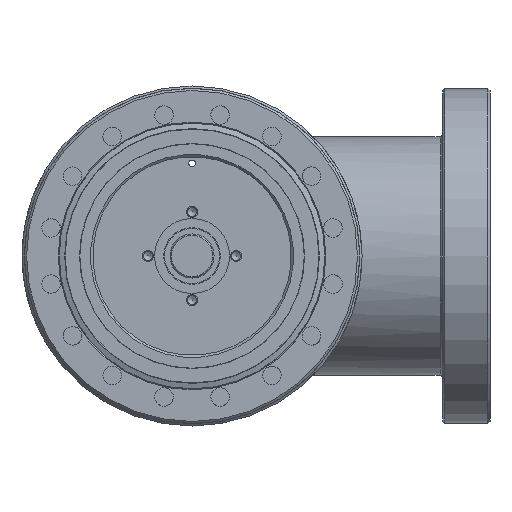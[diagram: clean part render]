
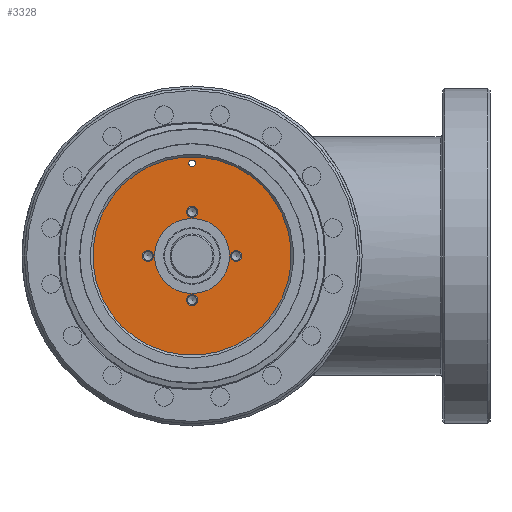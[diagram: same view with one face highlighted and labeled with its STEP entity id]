
A CAD part, left-side view. The second image highlights one B-rep face of the part: STEP entity #3328.
In plain terms, the highlighted planar face has unit normal (-1, 0, 0).
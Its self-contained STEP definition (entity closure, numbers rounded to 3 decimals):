
#3211=PLANE('',#8477);
#3328=ADVANCED_FACE('',(#3866,#3867,#3868,#3869,#3870,#3871,#3872),#3211,
 .T.);
#3866=FACE_BOUND('',#4478,.T.);
#3867=FACE_BOUND('',#4479,.T.);
#3868=FACE_BOUND('',#4480,.T.);
#3869=FACE_BOUND('',#4481,.T.);
#3870=FACE_BOUND('',#4482,.T.);
#3871=FACE_BOUND('',#4483,.T.);
#3872=FACE_BOUND('',#4484,.T.);
#4478=EDGE_LOOP('',(#5184));
#4479=EDGE_LOOP('',(#5185));
#4480=EDGE_LOOP('',(#5186));
#4481=EDGE_LOOP('',(#5187));
#4482=EDGE_LOOP('',(#5188));
#4483=EDGE_LOOP('',(#5189));
#4484=EDGE_LOOP('',(#5190));
#5184=ORIENTED_EDGE('',*,*,#7399,.T.);
#5185=ORIENTED_EDGE('',*,*,#7400,.F.);
#5186=ORIENTED_EDGE('',*,*,#7401,.F.);
#5187=ORIENTED_EDGE('',*,*,#7402,.F.);
#5188=ORIENTED_EDGE('',*,*,#7403,.F.);
#5189=ORIENTED_EDGE('',*,*,#7404,.T.);
#5190=ORIENTED_EDGE('',*,*,#7398,.F.);
#6641=VERTEX_POINT('',#10550);
#6642=VERTEX_POINT('',#10553);
#6643=VERTEX_POINT('',#10555);
#6644=VERTEX_POINT('',#10557);
#6645=VERTEX_POINT('',#10559);
#6646=VERTEX_POINT('',#10561);
#6647=VERTEX_POINT('',#10563);
#7398=EDGE_CURVE('',#6641,#6641,#8146,.T.);
#7399=EDGE_CURVE('',#6642,#6642,#8147,.T.);
#7400=EDGE_CURVE('',#6643,#6643,#8148,.T.);
#7401=EDGE_CURVE('',#6644,#6644,#8149,.T.);
#7402=EDGE_CURVE('',#6645,#6645,#8150,.T.);
#7403=EDGE_CURVE('',#6646,#6646,#8151,.T.);
#7404=EDGE_CURVE('',#6647,#6647,#8152,.T.);
#8146=CIRCLE('',#8469,17.006);
#8147=CIRCLE('',#8471,1.5);
#8148=CIRCLE('',#8472,2.5);
#8149=CIRCLE('',#8473,2.5);
#8150=CIRCLE('',#8474,2.5);
#8151=CIRCLE('',#8475,2.5);
#8152=CIRCLE('',#8476,45.);
#8469=AXIS2_PLACEMENT_3D('',#10549,#9221,#9222);
#8471=AXIS2_PLACEMENT_3D('',#10552,#9225,#9226);
#8472=AXIS2_PLACEMENT_3D('',#10554,#9227,#9228);
#8473=AXIS2_PLACEMENT_3D('',#10556,#9229,#9230);
#8474=AXIS2_PLACEMENT_3D('',#10558,#9231,#9232);
#8475=AXIS2_PLACEMENT_3D('',#10560,#9233,#9234);
#8476=AXIS2_PLACEMENT_3D('',#10562,#9235,#9236);
#8477=AXIS2_PLACEMENT_3D('',#10564,#9237,#9238);
#9221=DIRECTION('',(-1.,0.,0.));
#9222=DIRECTION('',(0.,0.,1.));
#9225=DIRECTION('',(1.,0.,0.));
#9226=DIRECTION('',(0.,0.,-1.));
#9227=DIRECTION('',(-1.,0.,0.));
#9228=DIRECTION('',(0.,0.,1.));
#9229=DIRECTION('',(-1.,0.,0.));
#9230=DIRECTION('',(0.,-1.,0.));
#9231=DIRECTION('',(-1.,0.,0.));
#9232=DIRECTION('',(0.,0.,-1.));
#9233=DIRECTION('',(-1.,0.,0.));
#9234=DIRECTION('',(0.,1.,0.));
#9235=DIRECTION('',(-1.,0.,0.));
#9236=DIRECTION('',(0.,0.,1.));
#9237=DIRECTION('',(-1.,0.,0.));
#9238=DIRECTION('',(0.,0.,1.));
#10549=CARTESIAN_POINT('',(1.,0.,0.));
#10550=CARTESIAN_POINT('',(1.,0.,17.006));
#10552=CARTESIAN_POINT('',(1.,40.569,10.87));
#10553=CARTESIAN_POINT('',(1.,40.569,9.37));
#10554=CARTESIAN_POINT('',(1.,19.319,5.176));
#10555=CARTESIAN_POINT('',(1.,19.319,7.676));
#10556=CARTESIAN_POINT('',(1.,-5.176,19.319));
#10557=CARTESIAN_POINT('',(1.,-7.676,19.319));
#10558=CARTESIAN_POINT('',(1.,-19.319,-5.176));
#10559=CARTESIAN_POINT('',(1.,-19.319,-7.676));
#10560=CARTESIAN_POINT('',(1.,5.176,-19.319));
#10561=CARTESIAN_POINT('',(1.,7.676,-19.319));
#10562=CARTESIAN_POINT('',(1.,0.,0.));
#10563=CARTESIAN_POINT('',(1.,0.,45.));
#10564=CARTESIAN_POINT('',(1.,17.006,0.));
